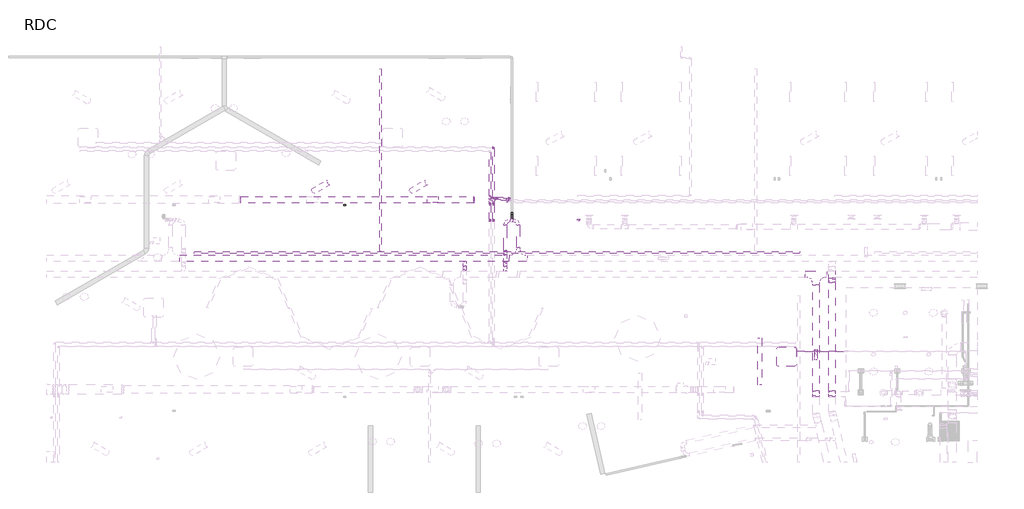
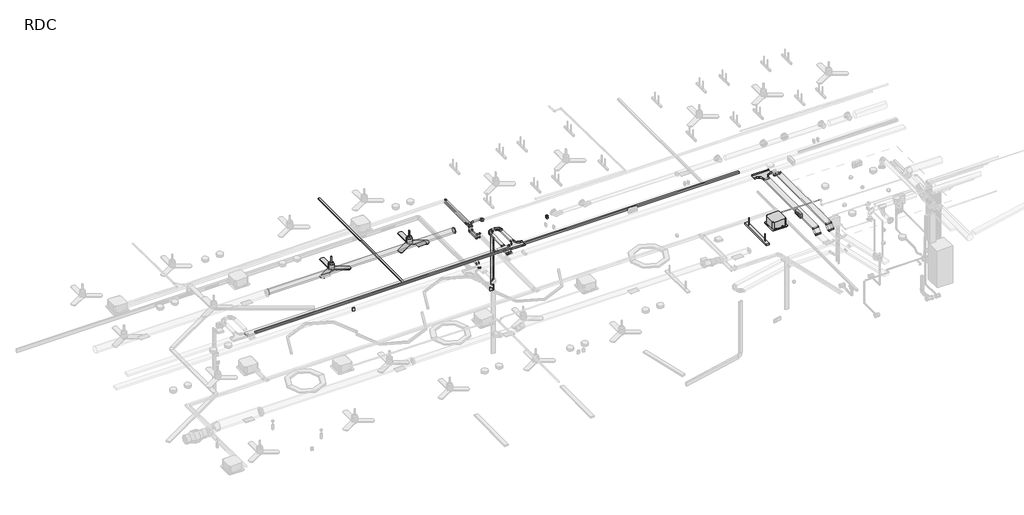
# One storey, part 7 of 15: 18 pipe fittings, 18 pipe segments, 16 cable carrier fittings, 16 cable carrier segments, 5 proxies, 4 light fixtures, 2 duct fittings, 2 duct segments, 1 air terminal.
"""IFC4 building model written with IfcOpenShell, lengths in millimetres."""

from ifc_helpers import new_model, si_unit, point, frame, frame_2d, origin, place, context, project, spatial, polyline, circle_curve, trimmed, segment, composite_curve, outline, extrude, transform, mapped, element, save
from components import air_terminal_300x150_ce1732d7, security_devices_b28b6cb9, electrical_fixtures_3a4acf06, mechanical_equipment_4a9d14a3, cassette_600x600_07ba985d, cable_carrier_fitting_150mm_radius_0ad93986, cable_carrier_fitting_150mm_radius_3a3edb3e, standaard_2330e57b, standaard_15b901d2, standaard_b1635a4a, standaard_3ccb1d7a, standaard_35becd63, coude_rectangulaire_rayon_1_w_bc62d8c9, standard_0dd78975, light_fixture_d6a2bba2, light_fixture_5d545681, light_fixture_1af5f06e, a9_4b38396c, standard_a87af493, standard_ff5d54bc, standard_8dba9d94

model = new_model("IFC4")

# Units and contexts
model_context = context("Model", 3, world=origin())
ifc_project = project(units=[si_unit("LENGTHUNIT", "METRE", prefix="MILLI")], contexts=[model_context])

# Site, building, storey
site = spatial("IfcSite", under=ifc_project)
building = spatial("IfcBuilding", under=site)
storey = spatial("IfcBuildingStorey", under=building, Name="RDC", Elevation=0.0)

# Air terminal
placement = place(None, origin())
air_terminal_300x150_shape = air_terminal_300x150_ce1732d7(model_context)
element("IfcAirTerminal", 1, ObjectType="AI_Bouche aération_Grille de soufflage rectangulaire sur gaine : 300x150", at=placement, inside=storey, context=model_context, shape_type="MappedRepresentation", body=[
    mapped(air_terminal_300x150_shape, transform((19474.9639686, 10202.3417334, 2750.0), x_axis=(0.0, 1.0, 0.0), y_axis=(-1.0, 0.0, 0.0), z_axis=(0.0, 0.0, 1.0))),
])

# Proxies
security_devices_shape = security_devices_b28b6cb9(model_context)
element("IfcBuildingElementProxy", 2, Name="AI_Disp secu_Détecteur volumétrique : Presence Detector - 70 x 100 x 70", ObjectType="AI_Disp secu_Détecteur volumétrique : Presence Detector - 70 x 100 x 70", at=placement, inside=storey, context=model_context, shape_type="MappedRepresentation", body=[
    mapped(security_devices_shape, transform((23956.5693176, 9611.1941684, 2600.7684954), x_axis=(1.0, 0.0, 0.0), y_axis=(0.0, 1.0, 0.0), z_axis=(0.0, 0.0, 1.0))),
])
electrical_fixtures_shape = electrical_fixtures_3a4acf06(model_context)
element("IfcBuildingElementProxy", 3, Name="AI_Instal elec_Brasseur d'air : AI_Instal elec_Brasseur d'air", ObjectType="AI_Instal elec_Brasseur d'air : AI_Instal elec_Brasseur d'air", at=placement, inside=storey, context=model_context, shape_type="MappedRepresentation", body=[
    mapped(electrical_fixtures_shape, transform((19346.0013218, 10773.1375381, 2500.0), x_axis=(1.0, 0.0, 0.0), y_axis=(0.0, 1.0, 0.0), z_axis=(0.0, 0.0, 1.0))),
])
element("IfcBuildingElementProxy", 4, Name="AI_Instal elec_Brasseur d'air : AI_Instal elec_Brasseur d'air", ObjectType="AI_Instal elec_Brasseur d'air : AI_Instal elec_Brasseur d'air", at=placement, inside=storey, context=model_context, shape_type="MappedRepresentation", body=[
    mapped(electrical_fixtures_shape, transform((16346.0013218, 10773.1375381, 2500.0), x_axis=(1.0, 0.0, 0.0), y_axis=(0.0, 1.0, 0.0), z_axis=(0.0, 0.0, 1.0))),
])
mechanical_equipment_shape = mechanical_equipment_4a9d14a3(model_context)
element("IfcBuildingElementProxy", 5, Name="AI_Eqpmt genie clim_Commande murale Clim : Commande murale Clim", ObjectType="AI_Eqpmt genie clim_Commande murale Clim : Commande murale Clim", at=placement, inside=storey, context=model_context, shape_type="MappedRepresentation", body=[
    mapped(mechanical_equipment_shape, transform((16772.9752017, 10019.3027165, 1130.0), x_axis=(1.0, 0.0, 0.0), y_axis=(0.0, 1.0, 0.0), z_axis=(0.0, 0.0, 1.0))),
])
cassette_600x600_shape = cassette_600x600_07ba985d(model_context)
element("IfcBuildingElementProxy", 6, Name="AI_Eqpmt genie clim_Cassette plafonnière : Cassette 600x600", ObjectType="AI_Eqpmt genie clim_Cassette plafonnière : Cassette 600x600", at=placement, inside=storey, context=model_context, shape_type="MappedRepresentation", body=[
    mapped(cassette_600x600_shape, transform((29477.2942225, 6159.5368143, 2680.0), x_axis=(1.0, 0.0, 0.0), y_axis=(0.0, 1.0, 0.0), z_axis=(0.0, 0.0, 1.0))),
])

# Cable carrier fittings
cable_carrier_fitting_150mm_radius_shape = cable_carrier_fitting_150mm_radius_0ad93986(model_context)
element("IfcCableCarrierFitting", 7, ObjectType="AI_Raccord cdc_Té : 150mm Radius", at=placement, inside=storey, context=model_context, shape_type="MappedRepresentation", body=[
    mapped(cable_carrier_fitting_150mm_radius_shape, transform((22102.472328, 8402.2308907, 2856.9968882), x_axis=(-1.0, 0.0, 0.0), y_axis=(0.0, -1.0, 0.0), z_axis=(0.0, 0.0, 1.0))),
])
cable_carrier_fitting_150mm_radius_2_shape = cable_carrier_fitting_150mm_radius_3a3edb3e(model_context)
element("IfcCableCarrierFitting", 8, ObjectType="AI_Raccord cdc_Té : 150mm Radius", at=placement, inside=storey, context=model_context, shape_type="MappedRepresentation", body=[
    mapped(cable_carrier_fitting_150mm_radius_2_shape, transform((31253.8980101, 7902.2308907, 2856.9968882), x_axis=(1.0, 0.0, 0.0), y_axis=(0.0, 1.0, 0.0), z_axis=(0.0, 0.0, 1.0))),
])
standaard_shape = standaard_2330e57b(model_context)
element("IfcCableCarrierFitting", 9, ObjectType="AI_Raccord cdc_Coude desencdant : standaard", at=placement, inside=storey, context=model_context, shape_type="MappedRepresentation", body=[
    mapped(standaard_shape, transform((21702.472328, 8618.1941892, 2856.9968882), x_axis=(0.0, -1.0, 0.0), y_axis=(0.0, 0.0, -1.0), z_axis=(1.0, 0.0, 0.0))),
])
element("IfcCableCarrierFitting", 10, ObjectType="AI_Raccord cdc_Coude desencdant : standaard", at=placement, inside=storey, context=model_context, shape_type="MappedRepresentation", body=[
    mapped(standaard_shape, transform((21702.472328, 8159.3743728, 2856.9968882), x_axis=(0.0, -0.7071067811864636, 0.7071067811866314), y_axis=(0.0, -0.7071067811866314, -0.7071067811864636), z_axis=(1.0, 0.0, 0.0))),
])
element("IfcCableCarrierFitting", 11, ObjectType="AI_Raccord cdc_Coude desencdant : standaard", at=placement, inside=storey, context=model_context, shape_type="MappedRepresentation", body=[
    mapped(standaard_shape, transform((20462.4237892, 8145.0874085, 2856.9968882), x_axis=(0.0, 0.7071067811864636, 0.7071067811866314), y_axis=(0.0, 0.7071067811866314, -0.7071067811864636), z_axis=(-1.0, 0.0, 0.0))),
])
standaard_2_shape = standaard_15b901d2(model_context)
element("IfcCableCarrierFitting", 12, ObjectType="AI_Raccord cdc_Coude montant : standaard", at=placement, inside=storey, context=model_context, shape_type="MappedRepresentation", body=[
    mapped(standaard_2_shape, transform((21702.472328, 8505.0571042, 2743.8598032), x_axis=(0.0, -0.7071067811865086, -0.7071067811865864), y_axis=(0.0, -0.7071067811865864, 0.7071067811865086), z_axis=(-1.0, 0.0, 0.0))),
])
element("IfcCableCarrierFitting", 13, ObjectType="AI_Raccord cdc_Coude montant : standaard", at=placement, inside=storey, context=model_context, shape_type="MappedRepresentation", body=[
    mapped(standaard_2_shape, transform((21702.472328, 8272.5114578, 2743.8598032), x_axis=(0.0, -1.0, 0.0), y_axis=(0.0, 0.0, 1.0), z_axis=(-1.0, 0.0, 0.0))),
])
element("IfcCableCarrierFitting", 14, ObjectType="AI_Raccord cdc_Coude montant : standaard", at=placement, inside=storey, context=model_context, shape_type="MappedRepresentation", body=[
    mapped(standaard_2_shape, transform((20462.4237892, 8031.9503235, 2743.8598032), x_axis=(0.0, 1.0, 0.0), y_axis=(0.0, 0.0, 1.0), z_axis=(1.0, 0.0, 0.0))),
])
standaard_3_shape = standaard_b1635a4a(model_context)
element("IfcCableCarrierFitting", 15, ObjectType="AI_Raccord cdc_Coude horizontal rayon court : standaard", at=placement, inside=storey, context=model_context, shape_type="MappedRepresentation", body=[
    mapped(standaard_3_shape, transform((21702.472328, 9569.3027165, 2856.9968882), x_axis=(-1.0, 0.0, 0.0), y_axis=(0.0, -1.0, 0.0), z_axis=(0.0, 0.0, 1.0))),
])
element("IfcCableCarrierFitting", 16, ObjectType="AI_Raccord cdc_Coude horizontal rayon court : standaard", at=placement, inside=storey, context=model_context, shape_type="MappedRepresentation", body=[
    mapped(standaard_3_shape, transform((22102.472328, 9569.3027165, 2856.9968882), x_axis=(0.0, 1.0, 0.0), y_axis=(-1.0, 0.0, 0.0), z_axis=(0.0, 0.0, 1.0))),
])
standaard_4_shape = standaard_3ccb1d7a(model_context)
element("IfcCableCarrierFitting", 17, ObjectType="AI_Raccord cdc_Coude desencdant : standaard", at=placement, inside=storey, context=model_context, shape_type="MappedRepresentation", body=[
    mapped(standaard_4_shape, transform((31753.8980101, 7670.1227614, 2856.9968882), x_axis=(0.0, 1.0, 0.0), y_axis=(0.0, 0.0, -1.0), z_axis=(-1.0, 0.0, 0.0))),
])
element("IfcCableCarrierFitting", 18, ObjectType="AI_Raccord cdc_Coude desencdant : standaard", at=placement, inside=storey, context=model_context, shape_type="MappedRepresentation", body=[
    mapped(standaard_4_shape, transform((31253.8980108, 4303.5836648, 2856.9968882), x_axis=(0.0, -1.0, 0.0), y_axis=(0.0, 0.0, -1.0), z_axis=(1.0, 0.0, 0.0))),
])
element("IfcCableCarrierFitting", 19, ObjectType="AI_Raccord cdc_Coude desencdant : standaard", at=placement, inside=storey, context=model_context, shape_type="MappedRepresentation", body=[
    mapped(standaard_4_shape, transform((31753.8980101, 4303.583848, 2856.9968882), x_axis=(0.0, -1.0, 0.0), y_axis=(0.0, 0.0, -1.0), z_axis=(1.0, 0.0, 0.0))),
])
standaard_5_shape = standaard_35becd63(model_context)
element("IfcCableCarrierFitting", 20, ObjectType="AI_Raccord cdc_Coude montant : standaard", at=placement, inside=storey, context=model_context, shape_type="MappedRepresentation", body=[
    mapped(standaard_5_shape, transform((31753.8980101, 7783.2598464, 2743.8598032), x_axis=(0.0, 0.7071067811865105, -0.7071067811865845), y_axis=(0.0, 0.7071067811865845, 0.7071067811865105), z_axis=(1.0, 0.0, 0.0))),
])
element("IfcCableCarrierFitting", 21, ObjectType="AI_Raccord cdc_Coude montant : standaard", at=placement, inside=storey, context=model_context, shape_type="MappedRepresentation", body=[
    mapped(standaard_5_shape, transform((31253.8980108, 4150.2981896, 2703.711413), x_axis=(0.0, -0.7071067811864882, -0.707106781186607), y_axis=(0.0, -0.707106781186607, 0.7071067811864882), z_axis=(-1.0, 0.0, 0.0))),
])
element("IfcCableCarrierFitting", 22, ObjectType="AI_Raccord cdc_Coude montant : standaard", at=placement, inside=storey, context=model_context, shape_type="MappedRepresentation", body=[
    mapped(standaard_5_shape, transform((31753.8980101, 4150.2983728, 2703.711413), x_axis=(0.0, -0.7071067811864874, -0.7071067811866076), y_axis=(0.0, -0.7071067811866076, 0.7071067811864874), z_axis=(-1.0, 0.0, 0.0))),
])

# Cable carrier segments
element("IfcCableCarrierSegment", 23, ObjectType="Par défaut", at=placement, inside=storey, context=model_context, shape_type="SweptSolid", body=[
    extrude(outline(polyline([(0.0, -200.0), (0.0, 0.0), (132.3187591, 0.0), (132.3187591, -200.0), (0.0, -200.0)])), frame((31653.8980101, 7658.6963545, 2825.9968882), z_axis=(0.0, 0.7071067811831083, 0.7071067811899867), x_axis=(0.0, 0.7071067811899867, -0.7071067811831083)), (0.0, 0.0, 1.0), 60.0),
])
element("IfcCableCarrierSegment", 24, ObjectType="Par défaut", at=placement, inside=storey, context=model_context, shape_type="SweptSolid", body=[
    extrude(outline(polyline([(31853.8980101, 7797.1004668), (31653.8980101, 7797.1004668), (31653.8980101, 8006.2896623), (31853.8980101, 8006.2896623), (31853.8980101, 7797.1004668)])), frame((0.0, 0.0, 2713.8598032), z_axis=(0.0, 0.0, 1.0), x_axis=(1.0, 0.0, 0.0)), (0.0, 0.0, 1.0), 60.0),
])
element("IfcCableCarrierSegment", 25, ObjectType="Par défaut", at=placement, inside=storey, context=model_context, shape_type="SweptSolid", body=[
    extrude(outline(polyline([(31153.8980101, 7577.2308906), (31353.8980101, 7577.2308907), (31353.8980108, 4317.4242852), (31153.8980108, 4317.4242852), (31153.8980101, 7577.2308906)])), frame((0.0, 0.0, 2826.9968882), z_axis=(0.0, 0.0, 1.0), x_axis=(1.0, 0.0, 0.0)), (0.0, 0.0, 1.0), 60.0),
])
element("IfcCableCarrierSegment", 26, ObjectType="Par défaut", at=placement, inside=storey, context=model_context, shape_type="SweptSolid", body=[
    extrude(outline(polyline([(-100.0, -74.4030651), (100.0, -74.4030651), (100.0, -134.403065), (-100.0, -134.403065), (-100.0, -74.4030651)])), frame((31253.8980108, 4233.9091014, 2639.6740943), z_axis=(0.0, 0.707106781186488, 0.7071067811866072), x_axis=(1.0, 0.0, 0.0)), (0.0, 0.0, 1.0), 189.0971571),
])
element("IfcCableCarrierSegment", 27, ObjectType="Par défaut", at=placement, inside=storey, context=model_context, shape_type="SweptSolid", body=[
    extrude(outline(polyline([(31653.8980101, 7656.2821409), (31853.8980101, 7656.2821409), (31853.8980101, 4317.4244684), (31653.8980101, 4317.4244684), (31653.8980101, 7656.2821409)])), frame((0.0, 0.0, 2826.9968882), z_axis=(0.0, 0.0, 1.0), x_axis=(1.0, 0.0, 0.0)), (0.0, 0.0, 1.0), 60.0),
])
element("IfcCableCarrierSegment", 28, ObjectType="Par défaut", at=placement, inside=storey, context=model_context, shape_type="SweptSolid", body=[
    extrude(outline(polyline([(-100.0, -74.4030651), (100.0, -74.4030651), (100.0, -134.403065), (-100.0, -134.403065), (-100.0, -74.4030651)])), frame((31753.8980101, 4233.9092846, 2639.6740943), z_axis=(0.0, 0.707106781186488, 0.7071067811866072), x_axis=(1.0, 0.0, 0.0)), (0.0, 0.0, 1.0), 189.0971571),
])
element("IfcCableCarrierSegment", 29, ObjectType="Par défaut", at=placement, inside=storey, context=model_context, shape_type="SweptSolid", body=[
    extrude(outline(polyline([(22052.472328, 9418.3027165), (22152.472328, 9418.3027165), (22152.472328, 8727.2308907), (22052.472328, 8727.2308907), (22052.472328, 9418.3027165)])), frame((0.0, 0.0, 2826.9968882), z_axis=(0.0, 0.0, 1.0), x_axis=(1.0, 0.0, 0.0)), (0.0, 0.0, 1.0), 60.0),
])
element("IfcCableCarrierSegment", 30, ObjectType="Par défaut", at=placement, inside=storey, context=model_context, shape_type="SweptSolid", body=[
    extrude(outline(polyline([(21652.472328, 9418.3027165), (21752.472328, 9418.3027165), (21752.472328, 8632.0348096), (21652.472328, 8632.0348096), (21652.472328, 9418.3027165)])), frame((0.0, 0.0, 2826.9968882), z_axis=(0.0, 0.0, 1.0), x_axis=(1.0, 0.0, 0.0)), (0.0, 0.0, 1.0), 60.0),
])
element("IfcCableCarrierSegment", 31, ObjectType="Par défaut", at=placement, inside=storey, context=model_context, shape_type="SweptSolid", body=[
    extrude(outline(polyline([(-50.0, -28.3095189), (50.0, -28.3095189), (50.0, -88.3095189), (-50.0, -88.3095189), (-50.0, -28.3095189)])), frame((21702.472328, 8556.074957, 2712.4155436), z_axis=(0.0, 0.7071067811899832, 0.7071067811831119), x_axis=(1.0, 0.0, 0.0)), (0.0, 0.0, 1.0), 132.3187591),
])
element("IfcCableCarrierSegment", 32, ObjectType="Par défaut", at=placement, inside=storey, context=model_context, shape_type="SweptSolid", body=[
    extrude(outline(polyline([(21652.472328, 8491.2164837), (21752.472328, 8491.2164837), (21752.472328, 8286.3520782), (21652.472328, 8286.3520782), (21652.472328, 8491.2164837)])), frame((0.0, 0.0, 2713.8598032), z_axis=(0.0, 0.0, 1.0), x_axis=(1.0, 0.0, 0.0)), (0.0, 0.0, 1.0), 60.0),
])
element("IfcCableCarrierSegment", 33, ObjectType="Par défaut", at=placement, inside=storey, context=model_context, shape_type="SweptSolid", body=[
    extrude(outline(polyline([(0.0, -100.0), (0.0, 0.0), (132.3187591, 0.0), (132.3187591, -100.0), (0.0, -100.0)])), frame((21752.472328, 8241.5114578, 2732.4333964), z_axis=(0.0, 0.7071067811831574, 0.7071067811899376), x_axis=(0.0, -0.7071067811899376, 0.7071067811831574)), (0.0, 0.0, 1.0), 60.0),
])
element("IfcCableCarrierSegment", 34, ObjectType="Par défaut", at=placement, inside=storey, context=model_context, shape_type="SweptSolid", body=[
    extrude(outline(polyline([(21652.472328, 8145.5337524), (21752.472328, 8145.5337524), (21752.472328, 8002.2308907), (21652.472328, 8002.2308907), (21652.472328, 8145.5337524)])), frame((0.0, 0.0, 2826.9968882), z_axis=(0.0, 0.0, 1.0), x_axis=(1.0, 0.0, 0.0)), (0.0, 0.0, 1.0), 60.0),
])
element("IfcCableCarrierSegment", 35, ObjectType="Par défaut", at=placement, inside=storey, context=model_context, shape_type="SweptSolid", body=[
    extrude(outline(polyline([(21853.472328, 9519.3027165), (21853.472328, 9619.3027165), (21951.472328, 9619.3027165), (21951.472328, 9519.3027165), (21853.472328, 9519.3027165)])), frame((0.0, 0.0, 2826.9968882), z_axis=(0.0, 0.0, 1.0), x_axis=(1.0, 0.0, 0.0)), (0.0, 0.0, 1.0), 60.0),
])
element("IfcCableCarrierSegment", 36, ObjectType="Par défaut", at=placement, inside=storey, context=model_context, shape_type="SweptSolid", body=[
    extrude(outline(polyline([(50.0, 88.309519), (50.0, 28.3095191), (-50.0, 28.3095191), (-50.0, 88.309519), (50.0, 88.309519)])), frame((20462.4237892, 8000.5060638, 2794.8776561), z_axis=(0.0, 0.7071067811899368, 0.7071067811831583), x_axis=(1.0, 0.0, 0.0)), (0.0, 0.0, 1.0), 132.3187591),
])
element("IfcCableCarrierSegment", 37, ObjectType="Par défaut", at=placement, inside=storey, context=model_context, shape_type="SweptSolid", body=[
    extrude(outline(polyline([(20512.4237892, 8158.9280289), (20412.4237892, 8158.9280289), (20412.4237892, 8302.2308907), (20512.4237892, 8302.2308907), (20512.4237892, 8158.9280289)])), frame((0.0, 0.0, 2826.9968882), z_axis=(0.0, 0.0, 1.0), x_axis=(1.0, 0.0, 0.0)), (0.0, 0.0, 1.0), 60.0),
])
element("IfcCableCarrierSegment", 38, ObjectType="Par défaut", at=placement, inside=storey, context=model_context, shape_type="SweptSolid", body=[
    extrude(outline(polyline([(21827.472328, 8502.2308907), (21827.472328, 8302.2308907), (11693.6802318, 8302.2308907), (11693.6802318, 8502.2308907), (21827.472328, 8502.2308907)])), frame((0.0, 0.0, 2826.9968882), z_axis=(0.0, 0.0, 1.0), x_axis=(1.0, 0.0, 0.0)), (0.0, 0.0, 1.0), 60.0),
])

# Duct fittings
coude_rectangulaire_rayon_1_w_shape = coude_rectangulaire_rayon_1_w_bc62d8c9(model_context)
element("IfcDuctFitting", 39, ObjectType="Coude rectangulaire - Rayon : 1 W", at=placement, inside=storey, context=model_context, shape_type="MappedRepresentation", body=[
    mapped(coude_rectangulaire_rayon_1_w_shape, transform((21912.989218, 9684.3027164, 300.0), x_axis=(0.0, -1.0, 0.0), y_axis=(0.0, 0.0, 1.0), z_axis=(-1.0, 0.0, 0.0))),
])
standard_shape = standard_0dd78975(model_context)
element("IfcDuctFitting", 40, ObjectType="Extrémité arrondie : Standard", at=placement, inside=storey, context=model_context, shape_type="MappedRepresentation", body=[
    mapped(standard_shape, transform((20733.7198738, 10202.3417334, 2850.0), x_axis=(1.0, 0.0, 0.0), y_axis=(0.0, 1.0, 0.0), z_axis=(0.0, 0.0, 1.0))),
])

# Duct segments
element("IfcDuctSegment", 41, ObjectType="Circulaire - Té", at=placement, inside=storey, context=model_context, shape_type="SweptSolid", body=[
    extrude(outline(composite_curve([segment(trimmed(circle_curve(frame_2d((10202.3417334, 2850.0)), 100.0), [point((10102.3417334, 2850.0))], [point((10202.3417334, 2950.0))], False, "CARTESIAN"), True, "CONTINUOUS"), segment(trimmed(circle_curve(frame_2d((10202.3417334, 2850.0)), 100.0), [point((10202.3417334, 2950.0))], [point((10302.3417334, 2850.0))], False, "CARTESIAN"), True, "CONTINUOUS"), segment(trimmed(circle_curve(frame_2d((10202.3417334, 2850.0)), 100.0), [point((10302.3417334, 2850.0))], [point((10202.3417334, 2750.0))], False, "CARTESIAN"), True, "CONTINUOUS"), segment(trimmed(circle_curve(frame_2d((10202.3417334, 2850.0)), 100.0), [point((10202.3417334, 2750.0))], [point((10102.3417334, 2850.0))], False, "CARTESIAN"), True, "CONTINUOUS")], self_intersect=False)), frame((13580.5320862, 0.0, 0.0), z_axis=(1.0, 0.0, 0.0), x_axis=(0.0, 1.0, 0.0)), (0.0, 0.0, 1.0), 7153.1877876),
])
element("IfcDuctSegment", 42, ObjectType="Goulotte", at=placement, inside=storey, context=model_context, shape_type="SweptSolid", body=[
    extrude(outline(polyline([(21937.989218, 9619.3027164), (21887.989218, 9619.3027164), (21887.989218, 9749.3027164), (21937.989218, 9749.3027164), (21937.989218, 9619.3027164)])), frame((0.0, 0.0, 430.0), z_axis=(0.0, 0.0, 1.0), x_axis=(1.0, 0.0, 0.0)), (0.0, 0.0, 1.0), 2070.0),
])

# Light fixtures
light_fixture_shape = light_fixture_d6a2bba2(model_context)
element("IfcLightFixture", 43, ObjectType="AI_Luminaire_BAES : BAES", at=placement, inside=storey, context=model_context, shape_type="MappedRepresentation", body=[
    mapped(light_fixture_shape, transform((31253.8980102, 5433.8656341, 2707.4449631), x_axis=(0.0, 1.0, 0.0), y_axis=(-1.0, 0.0, 0.0), z_axis=(0.0, 0.0, 1.0))),
])
light_fixture_2_shape = light_fixture_5d545681(model_context)
element("IfcLightFixture", 44, ObjectType="AI_Luminaire_CONCEPT S_Linéaire : CONCEPTION S", at=placement, inside=storey, context=model_context, shape_type="MappedRepresentation", body=[
    mapped(light_fixture_2_shape, transform((21451.8645863, 8572.3417461, 2733.711413), x_axis=(-0.9999999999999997, -2.7657709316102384e-08, 0.0), y_axis=(2.7657709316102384e-08, -0.9999999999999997, 0.0), z_axis=(0.0, 0.0, 1.0))),
])
light_fixture_3_shape = light_fixture_1af5f06e(model_context)
element("IfcLightFixture", 45, ObjectType="AI_Luminaire_CONCEPT S_Linéaire : CONCEPTION S", at=placement, inside=storey, context=model_context, shape_type="MappedRepresentation", body=[
    mapped(light_fixture_3_shape, transform((17867.989218, 11416.6900778, 2733.711413), x_axis=(0.0, 1.0, 0.0), y_axis=(-1.0, 0.0, 0.0), z_axis=(0.0, 0.0, 1.0))),
])
a9_shape = a9_4b38396c(model_context)
element("IfcLightFixture", 46, ObjectType="AI_Luminaire_Linéaire avec suspente : A9", at=placement, inside=storey, context=model_context, shape_type="MappedRepresentation", body=[
    mapped(a9_shape, transform((29526.6084994, 5223.1169599, 2680.0), x_axis=(0.0, -1.0, 0.0), y_axis=(1.0, 0.0, 0.0), z_axis=(0.0, 0.0, 1.0))),
])

# Pipe fittings
standard_2_shape = standard_a87af493(model_context)
element("IfcPipeFitting", 47, ObjectType="Coude - Générique1 : Standard", at=placement, inside=storey, context=model_context, shape_type="MappedRepresentation", body=[
    mapped(standard_2_shape, transform((21302.6570964, 10256.4911812, 2856.7309575), x_axis=(-1.0, 0.0, 0.0), y_axis=(0.0, 0.0, 1.0), z_axis=(0.0, 1.0, 0.0))),
])
element("IfcPipeFitting", 48, ObjectType="Coude - Générique1 : Standard", at=placement, inside=storey, context=model_context, shape_type="MappedRepresentation", body=[
    mapped(standard_2_shape, transform((21399.8574814, 10256.4911812, 2856.7309575), x_axis=(1.0, 0.0, 0.0), y_axis=(0.0, 0.0, 1.0), z_axis=(0.0, -1.0, 0.0))),
])
element("IfcPipeFitting", 49, ObjectType="Coude - Générique1 : Standard", at=placement, inside=storey, context=model_context, shape_type="MappedRepresentation", body=[
    mapped(standard_2_shape, transform((21461.4260239, 10256.4911812, 2918.2995), x_axis=(0.7071067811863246, 0.0, 0.7071067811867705), y_axis=(0.7071067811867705, 0.0, -0.7071067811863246), z_axis=(0.0, 1.0, 0.0))),
])
standard_3_shape = standard_ff5d54bc(model_context)
element("IfcPipeFitting", 50, ObjectType="Té - Générique : Standard", at=placement, inside=storey, context=model_context, shape_type="MappedRepresentation", body=[
    mapped(standard_3_shape, transform((21348.6271336, 10192.5030513, 2918.2995), x_axis=(0.0, 1.0, 0.0), y_axis=(-1.0, 0.0, 0.0), z_axis=(0.0, 0.0, 1.0))),
])
element("IfcPipeFitting", 51, ObjectType="Té - Générique : Standard", at=placement, inside=storey, context=model_context, shape_type="MappedRepresentation", body=[
    mapped(standard_3_shape, transform((21241.0885539, 10256.4911812, 2918.2995), x_axis=(0.0, -1.0, 0.0), y_axis=(-0.7071067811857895, 0.0, 0.7071067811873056), z_axis=(-0.7071067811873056, 0.0, -0.7071067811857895))),
])
standard_4_shape = standard_8dba9d94(model_context)
element("IfcPipeFitting", 52, ObjectType="Coude - Générique1 : Standard", at=placement, inside=storey, context=model_context, shape_type="MappedRepresentation", body=[
    mapped(standard_4_shape, transform((21348.6271336, 9557.6300193, 2730.0), x_axis=(0.0, -1.0, 0.0), y_axis=(0.0, 0.0, 1.0), z_axis=(-1.0, 0.0, 0.0))),
])
element("IfcPipeFitting", 53, ObjectType="Coude - Générique1 : Standard", at=placement, inside=storey, context=model_context, shape_type="MappedRepresentation", body=[
    mapped(standard_4_shape, transform((21241.0705539, 9557.6300193, 2730.0), x_axis=(0.0, -1.0, 0.0), y_axis=(0.0, 0.0, 1.0), z_axis=(-1.0, 0.0, 0.0))),
])
element("IfcPipeFitting", 54, ObjectType="Coude - Générique1 : Standard", at=placement, inside=storey, context=model_context, shape_type="MappedRepresentation", body=[
    mapped(standard_4_shape, transform((21241.0705539, 10061.1824232, 2730.0), x_axis=(0.0, 1.0, 0.0), y_axis=(0.0, 0.0, 1.0), z_axis=(1.0, 0.0, 0.0))),
])
element("IfcPipeFitting", 55, ObjectType="Coude - Générique1 : Standard", at=placement, inside=storey, context=model_context, shape_type="MappedRepresentation", body=[
    mapped(standard_4_shape, transform((21348.6271336, 10061.1824232, 2730.0), x_axis=(0.0, 1.0, 0.0), y_axis=(0.0, 0.0, 1.0), z_axis=(1.0, 0.0, 0.0))),
])
element("IfcPipeFitting", 56, ObjectType="Coude - Générique1 : Standard", at=placement, inside=storey, context=model_context, shape_type="MappedRepresentation", body=[
    mapped(standard_4_shape, transform((21241.0705539, 9557.6300193, 2918.2995), x_axis=(0.0, 0.0, 1.0), y_axis=(0.0, -1.0, 0.0), z_axis=(1.0, 0.0, 0.0))),
])
element("IfcPipeFitting", 57, ObjectType="Coude - Générique1 : Standard", at=placement, inside=storey, context=model_context, shape_type="MappedRepresentation", body=[
    mapped(standard_4_shape, transform((21348.6271336, 9557.6300193, 2918.2995), x_axis=(0.0, 0.0, 1.0), y_axis=(0.0, -1.0, 0.0), z_axis=(1.0, 0.0, 0.0))),
])
element("IfcPipeFitting", 58, ObjectType="Coude - Générique1 : Standard", at=placement, inside=storey, context=model_context, shape_type="MappedRepresentation", body=[
    mapped(standard_4_shape, transform((21348.6271336, 11808.1799373, 2918.2995), x_axis=(0.0, 1.0, 0.0), y_axis=(-1.0, 0.0, 0.0), z_axis=(0.0, 0.0, 1.0))),
])
element("IfcPipeFitting", 59, ObjectType="Coude - Générique1 : Standard", at=placement, inside=storey, context=model_context, shape_type="MappedRepresentation", body=[
    mapped(standard_4_shape, transform((21348.6271336, 10061.1824232, 2918.2995), x_axis=(0.0, 0.0, 1.0), y_axis=(0.0, 1.0, 0.0), z_axis=(-1.0, 0.0, 0.0))),
])
element("IfcPipeFitting", 60, ObjectType="Coude - Générique1 : Standard", at=placement, inside=storey, context=model_context, shape_type="MappedRepresentation", body=[
    mapped(standard_4_shape, transform((21769.1699631, 10118.6694062, 2918.2995), x_axis=(0.0, -1.0, 0.0), y_axis=(1.0, 0.0, 0.0), z_axis=(0.0, 0.0, 1.0))),
])
element("IfcPipeFitting", 61, ObjectType="Coude - Générique1 : Standard", at=placement, inside=storey, context=model_context, shape_type="MappedRepresentation", body=[
    mapped(standard_4_shape, transform((21769.1699631, 10192.5030513, 2918.2995), x_axis=(0.0, 1.0, 0.0), y_axis=(-1.0, 0.0, 0.0), z_axis=(0.0, 0.0, 1.0))),
])
element("IfcPipeFitting", 62, ObjectType="Coude - Générique1 : Standard", at=placement, inside=storey, context=model_context, shape_type="MappedRepresentation", body=[
    mapped(standard_4_shape, transform((21241.0705539, 10061.1824232, 2918.2995), x_axis=(0.0, 0.0, 1.0), y_axis=(6.018810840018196e-05, 0.9999999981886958, 0.0), z_axis=(-0.9999999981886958, 6.018810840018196e-05, 0.0))),
])
element("IfcPipeFitting", 63, ObjectType="Coude - Générique1 : Standard", at=placement, inside=storey, context=model_context, shape_type="MappedRepresentation", body=[
    mapped(standard_4_shape, transform((21837.8274143, 10185.9486268, 2918.2995), x_axis=(0.0, -1.0, 0.0), y_axis=(1.0, 0.0, 0.0), z_axis=(0.0, 0.0, 1.0))),
])
element("IfcPipeFitting", 64, ObjectType="Coude - Générique1 : Standard", at=placement, inside=storey, context=model_context, shape_type="MappedRepresentation", body=[
    mapped(standard_4_shape, transform((21837.8274143, 10256.4911812, 2918.2995), x_axis=(0.0, 1.0, 0.0), y_axis=(-1.0, 0.0, 0.0), z_axis=(0.0, 0.0, 1.0))),
])

# Pipe segments
element("IfcPipeSegment", 65, ObjectType="Acier - Té", at=placement, inside=storey, context=model_context, shape_type="SweptSolid", body=[
    extrude(outline(composite_curve([segment(trimmed(circle_curve(frame_2d((0.0, 21.082)), 21.082), [point((0.0, 42.164))], [point((21.082, 21.082))], False, "CARTESIAN"), True, "CONTINUOUS"), segment(trimmed(circle_curve(frame_2d((0.0, 21.082)), 21.082), [point((21.082, 21.082))], [point((0.0, 0.0))], False, "CARTESIAN"), True, "CONTINUOUS"), segment(trimmed(circle_curve(frame_2d((0.0, 21.082)), 21.082), [point((0.0, 0.0))], [point((-21.082, 21.082))], False, "CARTESIAN"), True, "CONTINUOUS"), segment(trimmed(circle_curve(frame_2d((0.0, 21.082)), 21.082), [point((-21.082, 21.082))], [point((0.0, 42.164))], False, "CARTESIAN"), True, "CONTINUOUS")], self_intersect=False)), frame((21219.9904801, 10093.185362, 2918.2995), z_axis=(0.0001393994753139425, 0.9999999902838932, 0.0), x_axis=(0.0, 0.0, 1.0)), (0.0, 0.0, 1.0), 115.3087592),
])
element("IfcPipeSegment", 66, ObjectType="Acier - Té", at=placement, inside=storey, context=model_context, shape_type="SweptSolid", body=[
    extrude(outline(composite_curve([segment(trimmed(circle_curve(frame_2d((2730.0, 21241.0705539)), 21.082), [point((2730.0, 21262.1525539))], [point((2751.082, 21241.0705539))], False, "CARTESIAN"), True, "CONTINUOUS"), segment(trimmed(circle_curve(frame_2d((2730.0, 21241.0705539)), 21.082), [point((2751.082, 21241.0705539))], [point((2730.0, 21219.9885539))], False, "CARTESIAN"), True, "CONTINUOUS"), segment(trimmed(circle_curve(frame_2d((2730.0, 21241.0705539)), 21.082), [point((2730.0, 21219.9885539))], [point((2708.918, 21241.0705539))], False, "CARTESIAN"), True, "CONTINUOUS"), segment(trimmed(circle_curve(frame_2d((2730.0, 21241.0705539)), 21.082), [point((2708.918, 21241.0705539))], [point((2730.0, 21262.1525539))], False, "CARTESIAN"), True, "CONTINUOUS")], self_intersect=False)), frame((0.0, 9589.6300193, 0.0), z_axis=(0.0, 1.0, 0.0), x_axis=(0.0, 0.0, 1.0)), (0.0, 0.0, 1.0), 439.5524039),
])
element("IfcPipeSegment", 67, ObjectType="Acier - Té", at=placement, inside=storey, context=model_context, shape_type="SweptSolid", body=[
    extrude(outline(composite_curve([segment(trimmed(circle_curve(frame_2d((2730.0, 21348.6271336)), 21.082), [point((2730.0, 21369.7091336))], [point((2751.082, 21348.6271336))], False, "CARTESIAN"), True, "CONTINUOUS"), segment(trimmed(circle_curve(frame_2d((2730.0, 21348.6271336)), 21.082), [point((2751.082, 21348.6271336))], [point((2730.0, 21327.5451336))], False, "CARTESIAN"), True, "CONTINUOUS"), segment(trimmed(circle_curve(frame_2d((2730.0, 21348.6271336)), 21.082), [point((2730.0, 21327.5451336))], [point((2708.918, 21348.6271336))], False, "CARTESIAN"), True, "CONTINUOUS"), segment(trimmed(circle_curve(frame_2d((2730.0, 21348.6271336)), 21.082), [point((2708.918, 21348.6271336))], [point((2730.0, 21369.7091336))], False, "CARTESIAN"), True, "CONTINUOUS")], self_intersect=False)), frame((0.0, 9589.6300193, 0.0), z_axis=(0.0, 1.0, 0.0), x_axis=(0.0, 0.0, 1.0)), (0.0, 0.0, 1.0), 439.5524039),
])
element("IfcPipeSegment", 68, ObjectType="Acier - Té", at=placement, inside=storey, context=model_context, shape_type="SweptSolid", body=[
    extrude(outline(composite_curve([segment(trimmed(circle_curve(frame_2d((21348.6271336, 9557.6300193)), 21.082), [point((21327.5451336, 9557.6300193))], [point((21348.6271336, 9578.7120193))], False, "CARTESIAN"), True, "CONTINUOUS"), segment(trimmed(circle_curve(frame_2d((21348.6271336, 9557.6300193)), 21.082), [point((21348.6271336, 9578.7120193))], [point((21369.7091336, 9557.6300193))], False, "CARTESIAN"), True, "CONTINUOUS"), segment(trimmed(circle_curve(frame_2d((21348.6271336, 9557.6300193)), 21.082), [point((21369.7091336, 9557.6300193))], [point((21348.6271336, 9536.5480193))], False, "CARTESIAN"), True, "CONTINUOUS"), segment(trimmed(circle_curve(frame_2d((21348.6271336, 9557.6300193)), 21.082), [point((21348.6271336, 9536.5480193))], [point((21327.5451336, 9557.6300193))], False, "CARTESIAN"), True, "CONTINUOUS")], self_intersect=False)), frame((0.0, 0.0, 2762.0), z_axis=(0.0, 0.0, 1.0), x_axis=(1.0, 0.0, 0.0)), (0.0, 0.0, 1.0), 124.2995),
])
element("IfcPipeSegment", 69, ObjectType="Acier - Té", at=placement, inside=storey, context=model_context, shape_type="SweptSolid", body=[
    extrude(outline(composite_curve([segment(trimmed(circle_curve(frame_2d((21241.0705539, 9557.6300193)), 21.082), [point((21219.9885539, 9557.6300193))], [point((21241.0705539, 9578.7120193))], False, "CARTESIAN"), True, "CONTINUOUS"), segment(trimmed(circle_curve(frame_2d((21241.0705539, 9557.6300193)), 21.082), [point((21241.0705539, 9578.7120193))], [point((21262.1525539, 9557.6300193))], False, "CARTESIAN"), True, "CONTINUOUS"), segment(trimmed(circle_curve(frame_2d((21241.0705539, 9557.6300193)), 21.082), [point((21262.1525539, 9557.6300193))], [point((21241.0705539, 9536.5480193))], False, "CARTESIAN"), True, "CONTINUOUS"), segment(trimmed(circle_curve(frame_2d((21241.0705539, 9557.6300193)), 21.082), [point((21241.0705539, 9536.5480193))], [point((21219.9885539, 9557.6300193))], False, "CARTESIAN"), True, "CONTINUOUS")], self_intersect=False)), frame((0.0, 0.0, 2762.0), z_axis=(0.0, 0.0, 1.0), x_axis=(1.0, 0.0, 0.0)), (0.0, 0.0, 1.0), 124.2995),
])
element("IfcPipeSegment", 70, ObjectType="Acier - Té", at=placement, inside=storey, context=model_context, shape_type="SweptSolid", body=[
    extrude(outline(composite_curve([segment(trimmed(circle_curve(frame_2d((21241.0705539, 10061.1824232)), 21.082), [point((21219.9885539, 10061.1824232))], [point((21241.0705539, 10082.2644232))], False, "CARTESIAN"), True, "CONTINUOUS"), segment(trimmed(circle_curve(frame_2d((21241.0705539, 10061.1824232)), 21.082), [point((21241.0705539, 10082.2644232))], [point((21262.1525539, 10061.1824232))], False, "CARTESIAN"), True, "CONTINUOUS"), segment(trimmed(circle_curve(frame_2d((21241.0705539, 10061.1824232)), 21.082), [point((21262.1525539, 10061.1824232))], [point((21241.0705539, 10040.1004232))], False, "CARTESIAN"), True, "CONTINUOUS"), segment(trimmed(circle_curve(frame_2d((21241.0705539, 10061.1824232)), 21.082), [point((21241.0705539, 10040.1004232))], [point((21219.9885539, 10061.1824232))], False, "CARTESIAN"), True, "CONTINUOUS")], self_intersect=False)), frame((0.0, 0.0, 2762.0), z_axis=(0.0, 0.0, 1.0), x_axis=(1.0, 0.0, 0.0)), (0.0, 0.0, 1.0), 124.2995),
])
element("IfcPipeSegment", 71, ObjectType="Acier - Té", at=placement, inside=storey, context=model_context, shape_type="SweptSolid", body=[
    extrude(outline(composite_curve([segment(trimmed(circle_curve(frame_2d((21348.6271336, 10061.1824232)), 21.082), [point((21327.5451336, 10061.1824232))], [point((21348.6271336, 10082.2644232))], False, "CARTESIAN"), True, "CONTINUOUS"), segment(trimmed(circle_curve(frame_2d((21348.6271336, 10061.1824232)), 21.082), [point((21348.6271336, 10082.2644232))], [point((21369.7091336, 10061.1824232))], False, "CARTESIAN"), True, "CONTINUOUS"), segment(trimmed(circle_curve(frame_2d((21348.6271336, 10061.1824232)), 21.082), [point((21369.7091336, 10061.1824232))], [point((21348.6271336, 10040.1004232))], False, "CARTESIAN"), True, "CONTINUOUS"), segment(trimmed(circle_curve(frame_2d((21348.6271336, 10061.1824232)), 21.082), [point((21348.6271336, 10040.1004232))], [point((21327.5451336, 10061.1824232))], False, "CARTESIAN"), True, "CONTINUOUS")], self_intersect=False)), frame((0.0, 0.0, 2762.0), z_axis=(0.0, 0.0, 1.0), x_axis=(1.0, 0.0, 0.0)), (0.0, 0.0, 1.0), 124.2995),
])
element("IfcPipeSegment", 72, ObjectType="Acier - Té", at=placement, inside=storey, context=model_context, shape_type="SweptSolid", body=[
    extrude(outline(composite_curve([segment(trimmed(circle_curve(frame_2d((2918.2995, 21769.1699631)), 21.082), [point((2918.2995, 21790.2519631))], [point((2939.3815, 21769.1699631))], False, "CARTESIAN"), True, "CONTINUOUS"), segment(trimmed(circle_curve(frame_2d((2918.2995, 21769.1699631)), 21.082), [point((2939.3815, 21769.1699631))], [point((2918.2995, 21748.0879631))], False, "CARTESIAN"), True, "CONTINUOUS"), segment(trimmed(circle_curve(frame_2d((2918.2995, 21769.1699631)), 21.082), [point((2918.2995, 21748.0879631))], [point((2897.2175, 21769.1699631))], False, "CARTESIAN"), True, "CONTINUOUS"), segment(trimmed(circle_curve(frame_2d((2918.2995, 21769.1699631)), 21.082), [point((2897.2175, 21769.1699631))], [point((2918.2995, 21790.2519631))], False, "CARTESIAN"), True, "CONTINUOUS")], self_intersect=False)), frame((0.0, 10150.6694062, 0.0), z_axis=(0.0, 1.0, 0.0), x_axis=(0.0, 0.0, 1.0)), (0.0, 0.0, 1.0), 9.8336452),
])
element("IfcPipeSegment", 73, ObjectType="Acier - Té", at=placement, inside=storey, context=model_context, shape_type="SweptSolid", body=[
    extrude(outline(composite_curve([segment(trimmed(circle_curve(frame_2d((10192.5030513, 2918.2995)), 21.082), [point((10213.5850513, 2918.2995))], [point((10192.5030513, 2897.2175))], False, "CARTESIAN"), True, "CONTINUOUS"), segment(trimmed(circle_curve(frame_2d((10192.5030513, 2918.2995)), 21.082), [point((10192.5030513, 2897.2175))], [point((10171.4210513, 2918.2995))], False, "CARTESIAN"), True, "CONTINUOUS"), segment(trimmed(circle_curve(frame_2d((10192.5030513, 2918.2995)), 21.082), [point((10171.4210513, 2918.2995))], [point((10192.5030513, 2939.3815))], False, "CARTESIAN"), True, "CONTINUOUS"), segment(trimmed(circle_curve(frame_2d((10192.5030513, 2918.2995)), 21.082), [point((10192.5030513, 2939.3815))], [point((10213.5850513, 2918.2995))], False, "CARTESIAN"), True, "CONTINUOUS")], self_intersect=False)), frame((21396.6271336, 0.0, 0.0), z_axis=(1.0, 0.0, 0.0), x_axis=(0.0, 1.0, 0.0)), (0.0, 0.0, 1.0), 340.5428296),
])
element("IfcPipeSegment", 74, ObjectType="Acier - Té", at=placement, inside=storey, context=model_context, shape_type="SweptSolid", body=[
    extrude(outline(composite_curve([segment(trimmed(circle_curve(frame_2d((2918.2995, 21348.6271336)), 21.082), [point((2918.2995, 21327.5451336))], [point((2897.2175, 21348.6271336))], False, "CARTESIAN"), True, "CONTINUOUS"), segment(trimmed(circle_curve(frame_2d((2918.2995, 21348.6271336)), 21.082), [point((2897.2175, 21348.6271336))], [point((2918.2995, 21369.7091336))], False, "CARTESIAN"), True, "CONTINUOUS"), segment(trimmed(circle_curve(frame_2d((2918.2995, 21348.6271336)), 21.082), [point((2918.2995, 21369.7091336))], [point((2939.3815, 21348.6271336))], False, "CARTESIAN"), True, "CONTINUOUS"), segment(trimmed(circle_curve(frame_2d((2918.2995, 21348.6271336)), 21.082), [point((2939.3815, 21348.6271336))], [point((2918.2995, 21327.5451336))], False, "CARTESIAN"), True, "CONTINUOUS")], self_intersect=False)), frame((0.0, 10093.1824232, 0.0), z_axis=(0.0, 1.0, 0.0), x_axis=(0.0, 0.0, 1.0)), (0.0, 0.0, 1.0), 51.3206281),
])
element("IfcPipeSegment", 75, ObjectType="Acier - Té", at=placement, inside=storey, context=model_context, shape_type="SweptSolid", body=[
    extrude(outline(composite_curve([segment(trimmed(circle_curve(frame_2d((2918.2995, 21348.6271336)), 21.082), [point((2918.2995, 21327.5451336))], [point((2897.2175, 21348.6271336))], False, "CARTESIAN"), True, "CONTINUOUS"), segment(trimmed(circle_curve(frame_2d((2918.2995, 21348.6271336)), 21.082), [point((2897.2175, 21348.6271336))], [point((2918.2995, 21369.7091336))], False, "CARTESIAN"), True, "CONTINUOUS"), segment(trimmed(circle_curve(frame_2d((2918.2995, 21348.6271336)), 21.082), [point((2918.2995, 21369.7091336))], [point((2939.3815, 21348.6271336))], False, "CARTESIAN"), True, "CONTINUOUS"), segment(trimmed(circle_curve(frame_2d((2918.2995, 21348.6271336)), 21.082), [point((2939.3815, 21348.6271336))], [point((2918.2995, 21327.5451336))], False, "CARTESIAN"), True, "CONTINUOUS")], self_intersect=False)), frame((0.0, 10240.5030513, 0.0), z_axis=(0.0, 1.0, 0.0), x_axis=(0.0, 0.0, 1.0)), (0.0, 0.0, 1.0), 1535.676886),
])
element("IfcPipeSegment", 76, ObjectType="Acier - Té", at=placement, inside=storey, context=model_context, shape_type="SweptSolid", body=[
    extrude(outline(composite_curve([segment(trimmed(circle_curve(frame_2d((0.0, 21.082)), 21.082), [point((0.0, 42.164))], [point((21.082, 21.082))], False, "CARTESIAN"), True, "CONTINUOUS"), segment(trimmed(circle_curve(frame_2d((0.0, 21.082)), 21.082), [point((21.082, 21.082))], [point((0.0, 0.0))], False, "CARTESIAN"), True, "CONTINUOUS"), segment(trimmed(circle_curve(frame_2d((0.0, 21.082)), 21.082), [point((0.0, 0.0))], [point((-21.0820001, 21.082))], False, "CARTESIAN"), True, "CONTINUOUS"), segment(trimmed(circle_curve(frame_2d((0.0, 21.082)), 21.082), [point((-21.0820001, 21.082))], [point((0.0, 42.164))], False, "CARTESIAN"), True, "CONTINUOUS")], self_intersect=False)), frame((21280.0296794, 10235.4091812, 2879.3583745), z_axis=(-0.7071067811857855, 0.0, 0.7071067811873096), x_axis=(0.7071067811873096, 0.0, 0.7071067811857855)), (0.0, 0.0, 1.0), 7.0710678),
])
element("IfcPipeSegment", 77, ObjectType="Acier - Té", at=placement, inside=storey, context=model_context, shape_type="SweptSolid", body=[
    extrude(outline(composite_curve([segment(trimmed(circle_curve(frame_2d((0.0, -21.082)), 21.082), [point((0.0, 0.0))], [point((21.082, -21.082))], False, "CARTESIAN"), True, "CONTINUOUS"), segment(trimmed(circle_curve(frame_2d((0.0, -21.082)), 21.082), [point((21.082, -21.082))], [point((0.0, -42.164))], False, "CARTESIAN"), True, "CONTINUOUS"), segment(trimmed(circle_curve(frame_2d((0.0, -21.082)), 21.082), [point((0.0, -42.164))], [point((-21.082, -21.082))], False, "CARTESIAN"), True, "CONTINUOUS"), segment(trimmed(circle_curve(frame_2d((0.0, -21.082)), 21.082), [point((-21.082, -21.082))], [point((0.0, 0.0))], False, "CARTESIAN"), True, "CONTINUOUS")], self_intersect=False)), frame((21220.0065539, 10304.4909096, 2918.2995), z_axis=(-1.2882536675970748e-05, 0.9999999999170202, 0.0), x_axis=(0.0, 0.0, -1.0)), (0.0, 0.0, 1.0), 1361.2252715),
])
element("IfcPipeSegment", 78, ObjectType="Acier - Té", at=placement, inside=storey, context=model_context, shape_type="SweptSolid", body=[
    extrude(outline(composite_curve([segment(trimmed(circle_curve(frame_2d((0.0, 21.082)), 21.082), [point((0.0, 42.164))], [point((21.082, 21.082))], False, "CARTESIAN"), True, "CONTINUOUS"), segment(trimmed(circle_curve(frame_2d((0.0, 21.082)), 21.082), [point((21.082, 21.082))], [point((0.0, 0.0))], False, "CARTESIAN"), True, "CONTINUOUS"), segment(trimmed(circle_curve(frame_2d((0.0, 21.082)), 21.082), [point((0.0, 0.0))], [point((-21.082, 21.082))], False, "CARTESIAN"), True, "CONTINUOUS"), segment(trimmed(circle_curve(frame_2d((0.0, 21.082)), 21.082), [point((-21.082, 21.082))], [point((0.0, 42.164))], False, "CARTESIAN"), True, "CONTINUOUS")], self_intersect=False)), frame((21816.7454143, 10217.9486268, 2918.2995), z_axis=(2.0032168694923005e-12, 1.0, 0.0), x_axis=(0.0, 0.0, 1.0)), (0.0, 0.0, 1.0), 6.5425544),
])
element("IfcPipeSegment", 79, ObjectType="Acier - Té", at=placement, inside=storey, context=model_context, shape_type="SweptSolid", body=[
    extrude(outline(composite_curve([segment(trimmed(circle_curve(frame_2d((10256.4911812, 2918.2995)), 21.082), [point((10277.5731812, 2918.2995))], [point((10256.4911812, 2897.2175))], False, "CARTESIAN"), True, "CONTINUOUS"), segment(trimmed(circle_curve(frame_2d((10256.4911812, 2918.2995)), 21.082), [point((10256.4911812, 2897.2175))], [point((10235.4091812, 2918.2995))], False, "CARTESIAN"), True, "CONTINUOUS"), segment(trimmed(circle_curve(frame_2d((10256.4911812, 2918.2995)), 21.082), [point((10235.4091812, 2918.2995))], [point((10256.4911812, 2939.3815))], False, "CARTESIAN"), True, "CONTINUOUS"), segment(trimmed(circle_curve(frame_2d((10256.4911812, 2918.2995)), 21.082), [point((10256.4911812, 2939.3815))], [point((10277.5731812, 2918.2995))], False, "CARTESIAN"), True, "CONTINUOUS")], self_intersect=False)), frame((21493.4260239, 0.0, 0.0), z_axis=(1.0, 0.0, 0.0), x_axis=(0.0, 1.0, 0.0)), (0.0, 0.0, 1.0), 312.4013904),
])
element("IfcPipeSegment", 80, ObjectType="Acier - Té", at=placement, inside=storey, context=model_context, shape_type="SweptSolid", body=[
    extrude(outline(composite_curve([segment(trimmed(circle_curve(frame_2d((10256.4911812, 2856.7309575)), 21.082), [point((10235.4091812, 2856.7309575))], [point((10256.4911812, 2877.8129575))], False, "CARTESIAN"), True, "CONTINUOUS"), segment(trimmed(circle_curve(frame_2d((10256.4911812, 2856.7309575)), 21.082), [point((10256.4911812, 2877.8129575))], [point((10277.5731812, 2856.7309575))], False, "CARTESIAN"), True, "CONTINUOUS"), segment(trimmed(circle_curve(frame_2d((10256.4911812, 2856.7309575)), 21.082), [point((10277.5731812, 2856.7309575))], [point((10256.4911812, 2835.6489575))], False, "CARTESIAN"), True, "CONTINUOUS"), segment(trimmed(circle_curve(frame_2d((10256.4911812, 2856.7309575)), 21.082), [point((10256.4911812, 2835.6489575))], [point((10235.4091812, 2856.7309575))], False, "CARTESIAN"), True, "CONTINUOUS")], self_intersect=False)), frame((21334.6570964, 0.0, 0.0), z_axis=(1.0, 0.0, 0.0), x_axis=(0.0, 1.0, 0.0)), (0.0, 0.0, 1.0), 33.200385),
])
element("IfcPipeSegment", 81, ObjectType="Acier - Té", at=placement, inside=storey, context=model_context, shape_type="SweptSolid", body=[
    extrude(outline(composite_curve([segment(trimmed(circle_curve(frame_2d((0.0, 21.082)), 21.082), [point((0.0, 0.0))], [point((-21.0820001, 21.082))], False, "CARTESIAN"), True, "CONTINUOUS"), segment(trimmed(circle_curve(frame_2d((0.0, 21.082)), 21.082), [point((-21.0820001, 21.082))], [point((0.0, 42.164))], False, "CARTESIAN"), True, "CONTINUOUS"), segment(trimmed(circle_curve(frame_2d((0.0, 21.082)), 21.082), [point((0.0, 42.164))], [point((21.082, 21.082))], False, "CARTESIAN"), True, "CONTINUOUS"), segment(trimmed(circle_curve(frame_2d((0.0, 21.082)), 21.082), [point((21.082, 21.082))], [point((0.0, 0.0))], False, "CARTESIAN"), True, "CONTINUOUS")], self_intersect=False)), frame((21422.4848984, 10235.4091812, 2879.3583745), z_axis=(0.7071067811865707, 0.0, 0.7071067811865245), x_axis=(0.7071067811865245, 0.0, -0.7071067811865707)), (0.0, 0.0, 1.0), 23.0710678),
])
element("IfcPipeSegment", 82, ObjectType="PVC", at=placement, inside=storey, context=model_context, shape_type="SweptSolid", body=[
    extrude(outline(composite_curve([segment(trimmed(circle_curve(frame_2d((0.0, -16.0)), 16.0), [point((0.0, -32.0))], [point((-16.0, -16.0))], False, "CARTESIAN"), True, "CONTINUOUS"), segment(trimmed(circle_curve(frame_2d((0.0, -16.0)), 16.0), [point((-16.0, -16.0))], [point((0.0, 0.0))], False, "CARTESIAN"), True, "CONTINUOUS"), segment(trimmed(circle_curve(frame_2d((0.0, -16.0)), 16.0), [point((0.0, 0.0))], [point((16.0000001, -16.0))], False, "CARTESIAN"), True, "CONTINUOUS"), segment(trimmed(circle_curve(frame_2d((0.0, -16.0)), 16.0), [point((16.0000001, -16.0))], [point((0.0, -32.0))], False, "CARTESIAN"), True, "CONTINUOUS")], self_intersect=False)), frame((32130.292665, 5554.9994543, 2924.4615983), z_axis=(-0.9998875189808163, 0.0, 0.01499831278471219), x_axis=(0.01499831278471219, 0.0, 0.9998875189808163)), (0.0, 0.0, 1.0), 1460.5),
])

save(model, "model.ifc")
